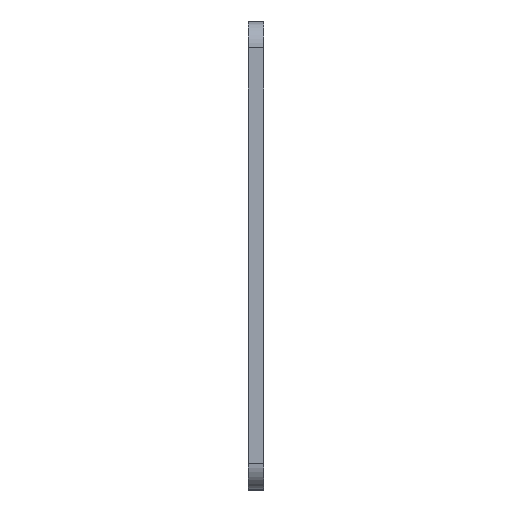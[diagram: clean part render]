
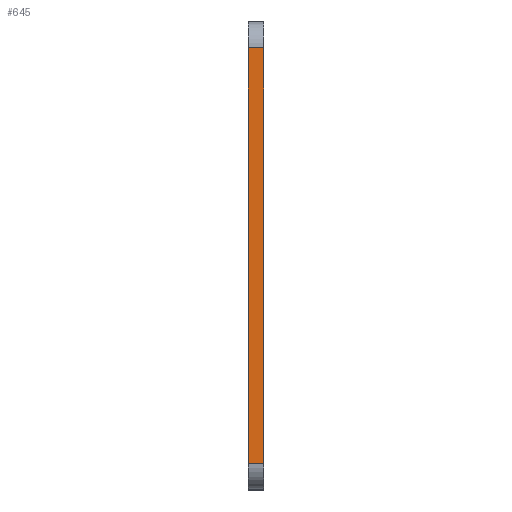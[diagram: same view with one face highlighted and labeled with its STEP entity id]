
A CAD part, top view. The second image highlights one B-rep face of the part: STEP entity #645.
In plain terms, the highlighted planar face has unit normal (0, 0, 1).
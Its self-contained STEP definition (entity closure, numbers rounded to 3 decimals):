
#632=AXIS2_PLACEMENT_3D('Plane Axis2P3D',#629,#630,#631) ;
#113=CARTESIAN_POINT('Vertex',(-3.,-40.,49.14)) ;
#116=CARTESIAN_POINT('Line Origine',(-3.,0.,49.14)) ;
#120=CARTESIAN_POINT('Vertex',(-3.,40.,49.14)) ;
#420=CARTESIAN_POINT('Vertex',(0.,40.,49.14)) ;
#423=CARTESIAN_POINT('Line Origine',(0.,0.,49.14)) ;
#427=CARTESIAN_POINT('Vertex',(0.,-40.,49.14)) ;
#617=CARTESIAN_POINT('Line Origine',(-1.5,-40.,49.14)) ;
#629=CARTESIAN_POINT('Axis2P3D Location',(0.,40.,49.14)) ;
#634=CARTESIAN_POINT('Line Origine',(-1.5,40.,49.14)) ;
#117=DIRECTION('Vector Direction',(0.,-1.,0.)) ;
#424=DIRECTION('Vector Direction',(0.,-1.,0.)) ;
#618=DIRECTION('Vector Direction',(-1.,0.,0.)) ;
#630=DIRECTION('Axis2P3D Direction',(-0.,-0.,-1.)) ;
#631=DIRECTION('Axis2P3D XDirection',(0.,-1.,0.)) ;
#635=DIRECTION('Vector Direction',(-1.,0.,0.)) ;
#118=VECTOR('Line Direction',#117,1.) ;
#425=VECTOR('Line Direction',#424,1.) ;
#619=VECTOR('Line Direction',#618,1.) ;
#636=VECTOR('Line Direction',#635,1.) ;
#640=ORIENTED_EDGE('',*,*,#621,.F.) ;
#641=ORIENTED_EDGE('',*,*,#429,.T.) ;
#642=ORIENTED_EDGE('',*,*,#638,.T.) ;
#643=ORIENTED_EDGE('',*,*,#122,.F.) ;
#645=ADVANCED_FACE('Body.2',(#644),#633,.F.) ;
#122=EDGE_CURVE('',#114,#121,#119,.F.) ;
#429=EDGE_CURVE('',#428,#421,#426,.F.) ;
#621=EDGE_CURVE('',#428,#114,#620,.T.) ;
#638=EDGE_CURVE('',#421,#121,#637,.T.) ;
#639=EDGE_LOOP('',(#640,#641,#642,#643)) ;
#644=FACE_OUTER_BOUND('',#639,.T.) ;
#119=LINE('Line',#116,#118) ;
#426=LINE('Line',#423,#425) ;
#620=LINE('Line',#617,#619) ;
#637=LINE('Line',#634,#636) ;
#633=PLANE('',#632) ;
#114=VERTEX_POINT('',#113) ;
#121=VERTEX_POINT('',#120) ;
#421=VERTEX_POINT('',#420) ;
#428=VERTEX_POINT('',#427) ;
